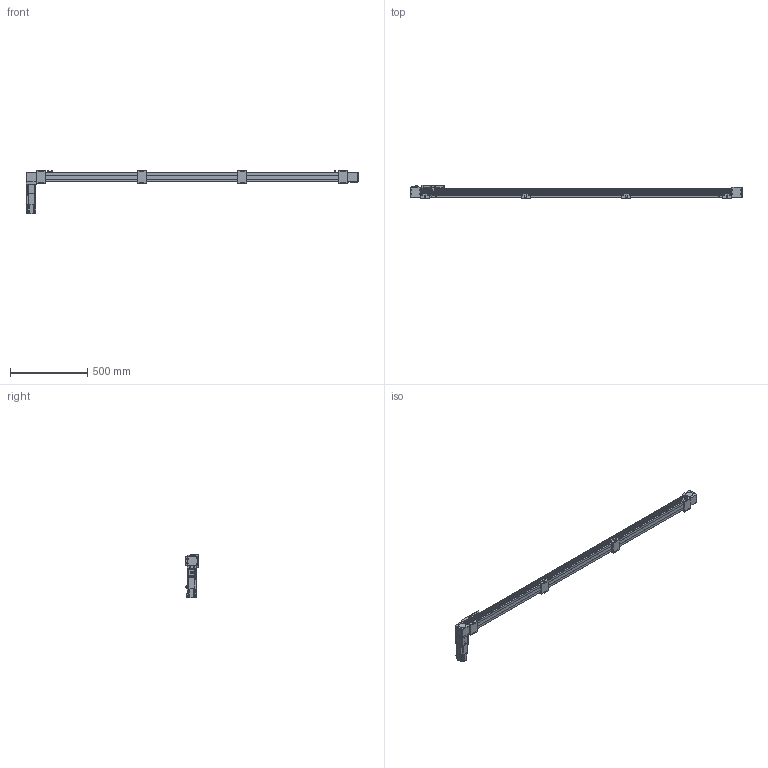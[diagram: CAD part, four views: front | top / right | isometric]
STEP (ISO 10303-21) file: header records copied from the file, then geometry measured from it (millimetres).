
FILE_DESCRIPTION(/* description */ ('STEP AP203'),/* implementation_level */ '2;1');
FILE_NAME(/* name */ 'SK60-P13-S1850-BR-T40-C1-N(0)',/* time_stamp */ '2023-04-06T04:00:27+02:00',/* author */ ('License CC BY-ND 4.0'),/* organization */ ('CADENAS'),/* preprocessor_version */ 'ST-DEVELOPER v19.3',/* originating_system */ 'PARTsolutions',/* authorisation */ ' ');
FILE_SCHEMA (('CONFIG_CONTROL_DESIGN'));
Length unit declared in the file: millimetre
Products named in the file (11): SK60-P13-S1850-BR-T40-C1-N(0); PSC140-sensor; SK60-S450_seat; SK60-S450-BL-C1_slider; SK60_body3; SK60_body6; SK60-BL_body2; T40-p1; SK60_body5; SK60_body4; SK60-S1850-BR-C1_body
Assembly tree (19 placements, depth 2):
  SK60-P13-S1850-BR-T40-C1-N(0)
    PSC140-sensor  x3
    SK60-S450_seat  x4
    SK60-S450-BL-C1_slider
    SK60_body3  x3
    SK60_body6  x2
    SK60-BL_body2  x2
    T40-p1
    SK60_body5
    SK60_body4
    SK60-S1850-BR-C1_body
Bounding box: 2150 x 90 x 279.1 mm (x, y, z)
Volume: 7895476.9 mm3; surface area: 989952.7 mm2
Topology: 19 solids, 23 shells, 922 faces, 2305 edges, 1522 vertices
Faces by surface type: plane 592, cylinder 298, cone 30, torus 2
Full cylindrical faces by diameter (mm): 2.8 x3, 3.3 x4, 4.2 x8, 4.5 x26, 4.6 x3, 4.917 x24, 5 x2, 5.478 x4, 5.5 x27, 6.5 x8, 8 x4, 8.5 x4, 9.988 x4, 10 x16, 13.556 x1, 14 x1, 14.586 x1, 19.692 x1, 38.432 x2, 43 x1, 44 x3, 47 x2, 50 x2
Entity records: 19387 total; most frequent: DIRECTION 3296, CARTESIAN_POINT 3291, ORIENTED_EDGE 3050, EDGE_CURVE 1525, AXIS2_PLACEMENT_3D 1102, LINE 1092, VECTOR 1092, VERTEX_POINT 1077
